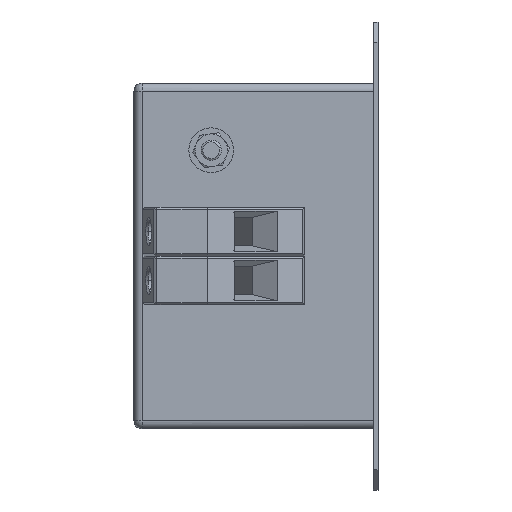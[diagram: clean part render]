
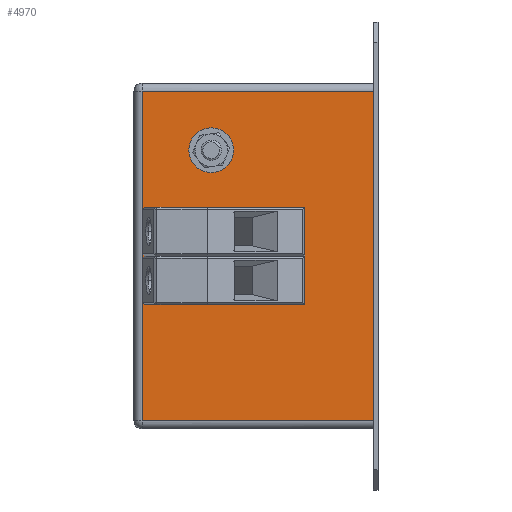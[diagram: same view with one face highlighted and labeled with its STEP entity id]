
A CAD part, left-side view. The second image highlights one B-rep face of the part: STEP entity #4970.
In plain terms, the highlighted planar face has unit normal (-1, 0, 0).
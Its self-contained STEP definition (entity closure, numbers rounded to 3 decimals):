
#8 = VERTEX_POINT ( 'NONE', #8092 ) ;
#100 = EDGE_LOOP ( 'NONE', ( #4651, #6583 ) ) ;
#110 = VERTEX_POINT ( 'NONE', #8267 ) ;
#262 = VERTEX_POINT ( 'NONE', #7576 ) ;
#396 = AXIS2_PLACEMENT_3D ( 'NONE', #4889, #683, #1385 ) ;
#604 = EDGE_CURVE ( 'NONE', #2098, #8767, #3525, .T. ) ;
#632 = CARTESIAN_POINT ( 'NONE',  ( -180., 49.8, -34.75 ) ) ;
#635 = DIRECTION ( 'NONE',  ( 1., 0., 0. ) ) ;
#683 = DIRECTION ( 'NONE',  ( 1., 0., 0. ) ) ;
#753 = ORIENTED_EDGE ( 'NONE', *, *, #8405, .T. ) ;
#1003 = DIRECTION ( 'NONE',  ( 0., 1., 0. ) ) ;
#1020 = AXIS2_PLACEMENT_3D ( 'NONE', #2359, #5884, #3800 ) ;
#1081 = VERTEX_POINT ( 'NONE', #6283 ) ;
#1088 = VERTEX_POINT ( 'NONE', #632 ) ;
#1252 = CARTESIAN_POINT ( 'NONE',  ( -180., 49.8, -50.25 ) ) ;
#1385 = DIRECTION ( 'NONE',  ( 0., 0., -1. ) ) ;
#1613 = CARTESIAN_POINT ( 'NONE',  ( -180., 49.8, -36.5 ) ) ;
#1636 = DIRECTION ( 'NONE',  ( 0., 0., 1. ) ) ;
#1917 = DIRECTION ( 'NONE',  ( 0., 0., -1. ) ) ;
#1928 = DIRECTION ( 'NONE',  ( 0., 0., 1. ) ) ;
#2034 = ORIENTED_EDGE ( 'NONE', *, *, #604, .T. ) ;
#2098 = VERTEX_POINT ( 'NONE', #2411 ) ;
#2166 = CARTESIAN_POINT ( 'NONE',  ( -180., 49.8, -38.25 ) ) ;
#2295 = CARTESIAN_POINT ( 'NONE',  ( -180., 0., -83. ) ) ;
#2359 = CARTESIAN_POINT ( 'NONE',  ( -180., 49.8, -48.5 ) ) ;
#2411 = CARTESIAN_POINT ( 'NONE',  ( -180., 39.8, -14. ) ) ;
#2546 = EDGE_CURVE ( 'NONE', #8767, #2098, #3639, .T. ) ;
#2606 = AXIS2_PLACEMENT_3D ( 'NONE', #5547, #7157, #5468 ) ;
#2629 = FACE_OUTER_BOUND ( 'NONE', #2631, .T. ) ;
#2631 = EDGE_LOOP ( 'NONE', ( #8506, #753, #5994, #6144 ) ) ;
#2637 = FACE_BOUND ( 'NONE', #5597, .T. ) ;
#2729 = FACE_BOUND ( 'NONE', #100, .T. ) ;
#2977 = CARTESIAN_POINT ( 'NONE',  ( -180., 39.8, -16.5 ) ) ;
#3114 = EDGE_CURVE ( 'NONE', #1088, #8658, #7135, .T. ) ;
#3206 = ORIENTED_EDGE ( 'NONE', *, *, #6270, .T. ) ;
#3433 = AXIS2_PLACEMENT_3D ( 'NONE', #4773, #635, #1928 ) ;
#3525 = CIRCLE ( 'NONE', #396, 2.5 ) ;
#3639 = CIRCLE ( 'NONE', #6709, 2.5 ) ;
#3764 = CARTESIAN_POINT ( 'NONE',  ( -180., 0., -85. ) ) ;
#3800 = DIRECTION ( 'NONE',  ( 0., 0., 1. ) ) ;
#3914 = EDGE_CURVE ( 'NONE', #1081, #110, #7690, .T. ) ;
#4230 = CIRCLE ( 'NONE', #1020, 1.75 ) ;
#4263 = FACE_BOUND ( 'NONE', #4509, .T. ) ;
#4422 = EDGE_CURVE ( 'NONE', #8658, #1088, #6679, .T. ) ;
#4447 = DIRECTION ( 'NONE',  ( 1., 0., 0. ) ) ;
#4509 = EDGE_LOOP ( 'NONE', ( #6176, #2034 ) ) ;
#4558 = CARTESIAN_POINT ( 'NONE',  ( -180., 58.8, -2. ) ) ;
#4570 = LINE ( 'NONE', #7965, #7653 ) ;
#4651 = ORIENTED_EDGE ( 'NONE', *, *, #4422, .T. ) ;
#4773 = CARTESIAN_POINT ( 'NONE',  ( -180., 49.8, -48.5 ) ) ;
#4786 = DIRECTION ( 'NONE',  ( 1., 0., 0. ) ) ;
#4889 = CARTESIAN_POINT ( 'NONE',  ( -180., 39.8, -16.5 ) ) ;
#4970 = ADVANCED_FACE ( 'NONE', ( #2637, #4263, #2729, #2629 ), #6683, .F. ) ;
#5108 = DIRECTION ( 'NONE',  ( 0., 0., -1. ) ) ;
#5215 = CIRCLE ( 'NONE', #3433, 1.75 ) ;
#5344 = DIRECTION ( 'NONE',  ( 0., -1., 0. ) ) ;
#5383 = VERTEX_POINT ( 'NONE', #2295 ) ;
#5468 = DIRECTION ( 'NONE',  ( 0., 0., -1. ) ) ;
#5547 = CARTESIAN_POINT ( 'NONE',  ( -180., 58.8, -85. ) ) ;
#5583 = VERTEX_POINT ( 'NONE', #1252 ) ;
#5597 = EDGE_LOOP ( 'NONE', ( #8544, #3206 ) ) ;
#5622 = CARTESIAN_POINT ( 'NONE',  ( -180., 39.8, -19. ) ) ;
#5767 = VECTOR ( 'NONE', #1636, 1000. ) ;
#5884 = DIRECTION ( 'NONE',  ( 1., 0., 0. ) ) ;
#5994 = ORIENTED_EDGE ( 'NONE', *, *, #7229, .T. ) ;
#6097 = CARTESIAN_POINT ( 'NONE',  ( -180., 58.8, -83. ) ) ;
#6144 = ORIENTED_EDGE ( 'NONE', *, *, #3914, .T. ) ;
#6176 = ORIENTED_EDGE ( 'NONE', *, *, #2546, .T. ) ;
#6200 = LINE ( 'NONE', #3764, #5767 ) ;
#6270 = EDGE_CURVE ( 'NONE', #8, #5583, #5215, .T. ) ;
#6283 = CARTESIAN_POINT ( 'NONE',  ( -180., 0., -2. ) ) ;
#6506 = DIRECTION ( 'NONE',  ( 0., 0., -1. ) ) ;
#6583 = ORIENTED_EDGE ( 'NONE', *, *, #3114, .T. ) ;
#6679 = CIRCLE ( 'NONE', #7736, 1.75 ) ;
#6683 = PLANE ( 'NONE',  #2606 ) ;
#6709 = AXIS2_PLACEMENT_3D ( 'NONE', #2977, #7916, #6506 ) ;
#6833 = AXIS2_PLACEMENT_3D ( 'NONE', #1613, #4447, #5108 ) ;
#6955 = LINE ( 'NONE', #6097, #8190 ) ;
#7135 = CIRCLE ( 'NONE', #6833, 1.75 ) ;
#7157 = DIRECTION ( 'NONE',  ( 1., 0., 0. ) ) ;
#7195 = EDGE_CURVE ( 'NONE', #5583, #8, #4230, .T. ) ;
#7212 = EDGE_CURVE ( 'NONE', #110, #262, #4570, .T. ) ;
#7229 = EDGE_CURVE ( 'NONE', #5383, #1081, #6200, .T. ) ;
#7576 = CARTESIAN_POINT ( 'NONE',  ( -180., 56.8, -83. ) ) ;
#7653 = VECTOR ( 'NONE', #8775, 1000. ) ;
#7690 = LINE ( 'NONE', #4558, #8915 ) ;
#7736 = AXIS2_PLACEMENT_3D ( 'NONE', #8402, #4786, #1917 ) ;
#7916 = DIRECTION ( 'NONE',  ( 1., 0., 0. ) ) ;
#7965 = CARTESIAN_POINT ( 'NONE',  ( -180., 56.8, -85. ) ) ;
#8092 = CARTESIAN_POINT ( 'NONE',  ( -180., 49.8, -46.75 ) ) ;
#8190 = VECTOR ( 'NONE', #5344, 1000. ) ;
#8267 = CARTESIAN_POINT ( 'NONE',  ( -180., 56.8, -2. ) ) ;
#8402 = CARTESIAN_POINT ( 'NONE',  ( -180., 49.8, -36.5 ) ) ;
#8405 = EDGE_CURVE ( 'NONE', #262, #5383, #6955, .T. ) ;
#8506 = ORIENTED_EDGE ( 'NONE', *, *, #7212, .T. ) ;
#8544 = ORIENTED_EDGE ( 'NONE', *, *, #7195, .T. ) ;
#8658 = VERTEX_POINT ( 'NONE', #2166 ) ;
#8767 = VERTEX_POINT ( 'NONE', #5622 ) ;
#8775 = DIRECTION ( 'NONE',  ( 0., 0., -1. ) ) ;
#8915 = VECTOR ( 'NONE', #1003, 1000. ) ;
